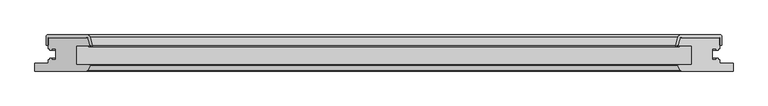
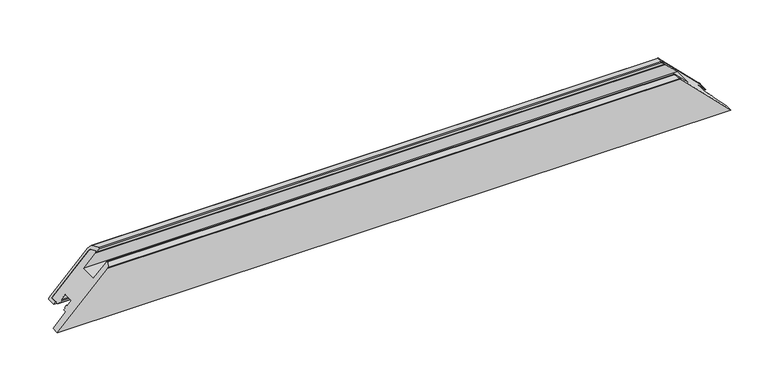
"""IFC4 building model written with IfcOpenShell, lengths in millimetres: proxy geometry, Weiku - Montante - Folha 02.2.01.017 : Weiku - Montante - Folha 02.2.01.017."""

from ifc_helpers import new_model, si_unit, frame, origin, place, context, project, spatial, polyline, ellipse_curve, source, transform, mapped, element, save
from ifc_brep_helpers import plane_surface, cylinder_surface, revolved_surface, advanced_brep


def generic_models_a8c19a0c(model_context):
    return source(origin(), model_context, "Body", "AdvancedBrep", [
        advanced_brep(
        [(502.0, 50.0, 20.0), (444.9997332, 50.0, 77.0002668), (-444.9997332, 50.0, 77.0002668), (-502.0, 50.0, 20.0), (442.1019557, 47.7764571, 79.8980443), (-442.1019557, 47.7764571, 79.8980443), (439.5170371, 38.1294095, 82.4829629), (-439.5170371, 38.1294095, 82.4829629), (440.0, 37.5, 82.0), (-440.0, 37.5, 82.0), (440.8560102, 37.5, 81.1439898), (-440.8560102, 37.5, 81.1439898), (440.8560102, 36.5, 81.1439898), (-440.8560102, 36.5, 81.1439898), (436.2425588, 36.5, 85.7574412), (-436.2425588, 36.5, 85.7574412), (435.2766329, 37.758819, 86.7233671), (-435.2766329, 37.758819, 86.7233671), (438.6354501, 50.2940952, 83.3645499), (-438.6354501, 50.2940952, 83.3645499), (443.4650792, 54.0, 78.5349208), (-443.4650792, 54.0, 78.5349208), (503.0, 54.0, 19.0), (-503.0, 54.0, 19.0), (505.0, 52.0, 17.0), (-505.0, 52.0, 17.0), (505.0, 38.5, 17.0), (-505.0, 38.5, 17.0), (502.0, 38.5, 20.0), (-502.0, 38.5, 20.0)],
        [
            (0, 1),
            (1, 2),
            (2, 3),
            (3, 0),
            (1, 4, ellipse_curve(frame((444.9997332, 47.0, 77.0002668), z_axis=(0.7071067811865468, 0.0, 0.7071067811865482), x_axis=(0.7071067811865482, 0.0, -0.7071067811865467)), 4.2426407, 3.0)),
            (4, 5),
            (5, 2, ellipse_curve(frame((-444.9997332, 47.0, 77.0002668), z_axis=(-0.7071067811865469, 0.0, 0.7071067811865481), x_axis=(0.7071067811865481, 0.0, 0.7071067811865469)), 4.2426407, 3.0)),
            (4, 6),
            (6, 7),
            (7, 5),
            (6, 8, ellipse_curve(frame((440.0, 38.0, 82.0), z_axis=(0.7071067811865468, 0.0, 0.7071067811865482), x_axis=(0.7071067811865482, 0.0, -0.7071067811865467)), 0.7071068, 0.5)),
            (8, 9),
            (9, 7, ellipse_curve(frame((-440.0, 38.0, 82.0), z_axis=(-0.7071067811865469, 0.0, 0.7071067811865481), x_axis=(0.7071067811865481, 0.0, 0.7071067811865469)), 0.7071068, 0.5)),
            (8, 10),
            (10, 11),
            (11, 9),
            (10, 12, ellipse_curve(frame((440.8560102, 37.0, 81.1439898), z_axis=(-0.7071067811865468, 0.0, -0.7071067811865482), x_axis=(-0.7071067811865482, 0.0, 0.7071067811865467)), 0.7071068, 0.5)),
            (12, 13),
            (13, 11, ellipse_curve(frame((-440.8560102, 37.0, 81.1439898), z_axis=(0.7071067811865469, 0.0, -0.7071067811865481), x_axis=(-0.7071067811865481, 0.0, -0.7071067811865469)), 0.7071068, 0.5)),
            (12, 14),
            (14, 15),
            (15, 13),
            (14, 16, ellipse_curve(frame((436.2425588, 37.5, 85.7574412), z_axis=(-0.7071067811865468, 0.0, -0.7071067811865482), x_axis=(-0.7071067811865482, 0.0, 0.7071067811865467)), 1.4142136, 1.0)),
            (16, 17),
            (17, 15, ellipse_curve(frame((-436.2425588, 37.5, 85.7574412), z_axis=(0.7071067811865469, 0.0, -0.7071067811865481), x_axis=(-0.7071067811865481, 0.0, -0.7071067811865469)), 1.4142136, 1.0)),
            (16, 18),
            (18, 19),
            (19, 17),
            (18, 20, ellipse_curve(frame((443.4650792, 49.0, 78.5349208), z_axis=(-0.7071067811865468, 0.0, -0.7071067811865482), x_axis=(-0.7071067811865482, 0.0, 0.7071067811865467)), 7.0710678, 5.0)),
            (20, 21),
            (21, 19, ellipse_curve(frame((-443.4650792, 49.0, 78.5349208), z_axis=(0.7071067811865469, 0.0, -0.7071067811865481), x_axis=(-0.7071067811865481, 0.0, -0.7071067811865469)), 7.0710678, 5.0)),
            (20, 22),
            (22, 23),
            (23, 21),
            (22, 24, ellipse_curve(frame((503.0, 52.0, 19.0), z_axis=(-0.7071067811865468, 0.0, -0.7071067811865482), x_axis=(-0.7071067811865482, 0.0, 0.7071067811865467)), 2.8284271, 2.0)),
            (24, 25),
            (25, 23, ellipse_curve(frame((-503.0, 52.0, 19.0), z_axis=(0.7071067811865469, 0.0, -0.7071067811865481), x_axis=(-0.7071067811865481, 0.0, -0.7071067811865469)), 2.8284271, 2.0)),
            (24, 26),
            (26, 27),
            (27, 25),
            (26, 28),
            (28, 29),
            (29, 27),
            (28, 0),
            (3, 29),
        ],
        [
            plane_surface(frame((-542.0, 50.0, 20.0), z_axis=(0.0, -1.0, 0.0), x_axis=(1.0, 0.0, 0.0))),
            revolved_surface(polyline([(447.99973320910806, 50.0, 77.0002668), (-447.99973320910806, 50.0, 77.0002668)]), (-542.0, 47.0, 77.0002668), (1.0, 0.0, 0.0)),
            plane_surface(frame((-542.0, 47.7764571, 79.8980443), z_axis=(0.0, -0.2588190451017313, -0.9659258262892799), x_axis=(1.0, 0.0, 0.0))),
            revolved_surface(polyline([(440.50000001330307, 38.5, 82.0), (-440.5000000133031, 38.5, 82.0)]), (-542.0, 38.0, 82.0), (1.0, 0.0, 0.0)),
            plane_surface(frame((-542.0, 37.5, 82.0), z_axis=(0.0, 1.0, 0.0), x_axis=(1.0, 0.0, 0.0))),
            cylinder_surface(frame((-542.0, 37.0, 81.1439898), z_axis=(-1.0, 0.0, 0.0), x_axis=(0.0, 1.0, 0.0)), 0.5),
            plane_surface(frame((-542.0, 36.5, 81.1439898), z_axis=(0.0, -1.0, 0.0), x_axis=(1.0, 0.0, 0.0))),
            cylinder_surface(frame((-542.0, 37.5, 85.7574412), z_axis=(-1.0, 0.0, 0.0), x_axis=(0.0, 1.0, 0.0)), 1.0),
            plane_surface(frame((-542.0, 37.758819, 86.7233671), z_axis=(0.0, 0.25881904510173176, 0.9659258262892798), x_axis=(1.0, 0.0, 0.0))),
            cylinder_surface(frame((-542.0, 49.0, 78.5349208), z_axis=(-1.0, 0.0, 0.0), x_axis=(0.0, 1.0, 0.0)), 5.0),
            plane_surface(frame((-542.0, 54.0, 78.5349208), z_axis=(0.0, 1.0, 0.0), x_axis=(1.0, 0.0, 0.0))),
            cylinder_surface(frame((-542.0, 52.0, 19.0), z_axis=(-1.0, 0.0, 0.0), x_axis=(0.0, 1.0, 0.0)), 2.0),
            plane_surface(frame((-542.0, 52.0, 17.0), z_axis=(0.0, 0.0, -1.0), x_axis=(1.0, 0.0, 0.0))),
            plane_surface(frame((-542.0, 38.5, 17.0), z_axis=(0.0, -1.0, 0.0), x_axis=(1.0, 0.0, 0.0))),
            plane_surface(frame((-542.0, 38.5, 20.0), z_axis=(0.0, 0.0, 1.0), x_axis=(1.0, 0.0, 0.0))),
            plane_surface(frame((432.0, 0.0, 90.0), z_axis=(0.7071067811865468, 0.0, 0.7071067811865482), x_axis=(0.0, 1.0, 0.0))),
            plane_surface(frame((-550.2842712, 0.0, -28.2842712), z_axis=(-0.7071067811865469, 0.0, 0.7071067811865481), x_axis=(0.0, 1.0, 0.0))),
        ],
        [
            (0, [[1, 2, 3, 4]]),
            (1, [[5, 6, 7, -2]]),
            (2, [[8, 9, 10, -6]]),
            (3, [[11, 12, 13, -9]]),
            (4, [[14, 15, 16, -12]]),
            (5, [[17, 18, 19, -15]]),
            (6, [[20, 21, 22, -18]]),
            (7, [[23, 24, 25, -21]]),
            (8, [[26, 27, 28, -24]]),
            (9, [[29, 30, 31, -27]]),
            (10, [[32, 33, 34, -30]]),
            (11, [[35, 36, 37, -33]]),
            (12, [[38, 39, 40, -36]]),
            (13, [[41, 42, 43, -39]]),
            (14, [[44, -4, 45, -42]]),
            (15, [[-1, -44, -41, -38, -35, -32, -29, -26, -23, -20, -17, -14, -11, -8, -5]]),
            (16, [[-3, -7, -10, -13, -16, -19, -22, -25, -28, -31, -34, -37, -40, -43, -45]]),
        ],
    ),
        advanced_brep(
        [(-502.0, 50.0, 20.0), (-444.9997332, 50.0, 77.0002668), (444.9997332, 50.0, 77.0002668), (502.0, 50.0, 20.0), (-522.0, 0.0, 0.0), (522.0, 0.0, 0.0), (443.9872264, 0.0, 78.0127736), (-443.9872264, 0.0, 78.0127736), (-502.0, 33.1, 20.0), (-499.8, 33.1, 22.2), (-499.8, 31.1, 22.2), (-497.0, 31.1, 25.0), (-497.0, 33.1, 25.0), (-490.5, 33.1, 31.5), (-490.5, 16.9, 31.5), (-497.0, 16.9, 25.0), (-497.0, 18.9, 25.0), (-499.8, 18.9, 22.2), (-499.8, 16.9, 22.2), (-502.0, 16.9, 20.0), (-502.0, 11.5, 20.0), (-522.0, 11.5, 0.0), (-443.0932657, 0.5518546, 78.9067343), (-439.5512796, 7.617411, 82.4487204), (-440.7134285, 9.5, 81.2865715), (-460.5, 9.5, 61.5), (-460.5, 37.5, 61.5), (-440.0, 37.5, 82.0), (-439.5170371, 38.1294095, 82.4829629), (-442.1019557, 47.7764571, 79.8980443), (442.1019557, 47.7764571, 79.8980443), (439.5170371, 38.1294095, 82.4829629), (440.0, 37.5, 82.0), (460.5, 37.5, 61.5), (460.5, 9.5, 61.5), (440.7134285, 9.5, 81.2865715), (439.5512796, 7.617411, 82.4487204), (443.0932657, 0.5518546, 78.9067343), (522.0, 11.5, 0.0), (502.0, 11.5, 20.0), (502.0, 16.9, 20.0), (499.8, 16.9, 22.2), (499.8, 18.9, 22.2), (497.0, 18.9, 25.0), (497.0, 16.9, 25.0), (490.5, 16.9, 31.5), (490.5, 33.1, 31.5), (497.0, 33.1, 25.0), (497.0, 31.1, 25.0), (499.8, 31.1, 22.2), (499.8, 33.1, 22.2), (502.0, 33.1, 20.0)],
        [
            (0, 1),
            (1, 2),
            (2, 3),
            (3, 0),
            (4, 5),
            (5, 6),
            (6, 7),
            (7, 4),
            (0, 8),
            (8, 9),
            (9, 10),
            (10, 11),
            (11, 12),
            (12, 13),
            (13, 14),
            (14, 15),
            (15, 16),
            (16, 17),
            (17, 18),
            (18, 19),
            (19, 20),
            (20, 21),
            (21, 4),
            (7, 22, ellipse_curve(frame((-443.9872264, 1.0, 78.0127736), z_axis=(-0.7071067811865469, 0.0, 0.7071067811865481), x_axis=(-0.7071067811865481, 0.0, -0.7071067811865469)), 1.4142136, 1.0)),
            (22, 23),
            (23, 24, ellipse_curve(frame((-440.7134285, 8.2, 81.2865715), z_axis=(-0.7071067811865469, 0.0, 0.7071067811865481), x_axis=(-0.7071067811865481, 0.0, -0.7071067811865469)), 1.8384776, 1.3)),
            (24, 25),
            (25, 26),
            (26, 27),
            (27, 28, ellipse_curve(frame((-440.0, 38.0, 82.0), z_axis=(-0.7071067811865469, 0.0, 0.7071067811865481), x_axis=(-0.7071067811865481, 0.0, -0.7071067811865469)), 0.7071068, 0.5)),
            (28, 29),
            (29, 1, ellipse_curve(frame((-444.9997332, 47.0, 77.0002668), z_axis=(-0.7071067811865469, 0.0, 0.7071067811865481), x_axis=(-0.7071067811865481, 0.0, -0.7071067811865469)), 4.2426407, 3.0)),
            (2, 30, ellipse_curve(frame((444.9997332, 47.0, 77.0002668), z_axis=(0.7071067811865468, 0.0, 0.7071067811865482), x_axis=(-0.7071067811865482, 0.0, 0.7071067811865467)), 4.2426407, 3.0)),
            (30, 31),
            (31, 32, ellipse_curve(frame((440.0, 38.0, 82.0), z_axis=(0.7071067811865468, 0.0, 0.7071067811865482), x_axis=(-0.7071067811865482, 0.0, 0.7071067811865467)), 0.7071068, 0.5)),
            (32, 33),
            (33, 34),
            (34, 35),
            (35, 36, ellipse_curve(frame((440.7134285, 8.2, 81.2865715), z_axis=(0.7071067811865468, 0.0, 0.7071067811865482), x_axis=(-0.7071067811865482, 0.0, 0.7071067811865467)), 1.8384776, 1.3)),
            (36, 37),
            (37, 6, ellipse_curve(frame((443.9872264, 1.0, 78.0127736), z_axis=(0.7071067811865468, 0.0, 0.7071067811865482), x_axis=(-0.7071067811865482, 0.0, 0.7071067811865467)), 1.4142136, 1.0)),
            (5, 38),
            (38, 39),
            (39, 40),
            (40, 41),
            (41, 42),
            (42, 43),
            (43, 44),
            (44, 45),
            (45, 46),
            (46, 47),
            (47, 48),
            (48, 49),
            (49, 50),
            (50, 51),
            (51, 3),
            (37, 22),
            (36, 23),
            (35, 24),
            (34, 25),
            (33, 26),
            (32, 27),
            (31, 28),
            (30, 29),
            (51, 8),
            (50, 9),
            (49, 10),
            (48, 11),
            (47, 12),
            (46, 13),
            (45, 14),
            (44, 15),
            (43, 16),
            (42, 17),
            (41, 18),
            (40, 19),
            (39, 20),
            (38, 21),
        ],
        [
            plane_surface(frame((-522.0, 50.0, 77.0002668), z_axis=(0.0, 1.0, 0.0), x_axis=(1.0, 0.0, 0.0))),
            plane_surface(frame((-522.0, 0.0, 0.0), z_axis=(0.0, -1.0, 0.0), x_axis=(1.0, 0.0, 0.0))),
            plane_surface(frame((-550.2842712, 0.0, -28.2842712), z_axis=(-0.7071067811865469, 0.0, 0.7071067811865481), x_axis=(0.0, 1.0, 0.0))),
            plane_surface(frame((432.0, 0.0, 90.0), z_axis=(0.7071067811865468, 0.0, 0.7071067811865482), x_axis=(0.0, 1.0, 0.0))),
            cylinder_surface(frame((-522.0, 1.0, 78.0127736), z_axis=(-1.0, 0.0, 0.0), x_axis=(0.0, 1.0, 0.0)), 1.0),
            plane_surface(frame((-522.0, 0.5518546, 78.9067343), z_axis=(0.0, -0.4481453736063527, 0.8939606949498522), x_axis=(1.0, 0.0, 0.0))),
            cylinder_surface(frame((-522.0, 8.2, 81.2865715), z_axis=(-1.0, 0.0, 0.0), x_axis=(0.0, 1.0, 0.0)), 1.3),
            plane_surface(frame((-522.0, 9.5, 81.2865715), z_axis=(0.0, 1.0, 0.0), x_axis=(1.0, 0.0, 0.0))),
            plane_surface(frame((-522.0, 9.5, 61.5), z_axis=(0.0, 0.0, 1.0), x_axis=(1.0, 0.0, 0.0))),
            plane_surface(frame((-522.0, 37.5, 61.5), z_axis=(0.0, -1.0, 0.0), x_axis=(1.0, 0.0, 0.0))),
            cylinder_surface(frame((-522.0, 38.0, 82.0), z_axis=(-1.0, 0.0, 0.0), x_axis=(0.0, 1.0, 0.0)), 0.5),
            plane_surface(frame((-522.0, 38.1294095, 82.4829629), z_axis=(0.0, 0.2588190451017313, 0.9659258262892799), x_axis=(1.0, 0.0, 0.0))),
            cylinder_surface(frame((-522.0, 47.0, 77.0002668), z_axis=(-1.0, 0.0, 0.0), x_axis=(0.0, 1.0, 0.0)), 3.0),
            plane_surface(frame((-522.0, 50.0, 20.0), z_axis=(0.0, 0.0, -1.0), x_axis=(1.0, 0.0, 0.0))),
            plane_surface(frame((-522.0, 33.1, 20.0), z_axis=(0.0, -1.0, 0.0), x_axis=(1.0, 0.0, 0.0))),
            plane_surface(frame((-522.0, 33.1, 22.2), z_axis=(0.0, 0.0, -1.0), x_axis=(1.0, 0.0, 0.0))),
            plane_surface(frame((-522.0, 31.1, 22.2), z_axis=(0.0, -1.0, 0.0), x_axis=(1.0, 0.0, 0.0))),
            plane_surface(frame((-522.0, 31.1, 25.0), z_axis=(0.0, 0.0, 1.0), x_axis=(1.0, 0.0, 0.0))),
            plane_surface(frame((-522.0, 33.1, 25.0), z_axis=(0.0, -1.0, 0.0), x_axis=(1.0, 0.0, 0.0))),
            plane_surface(frame((-522.0, 33.1, 31.5), z_axis=(0.0, 0.0, -1.0), x_axis=(1.0, 0.0, 0.0))),
            plane_surface(frame((-522.0, 16.9, 31.5), z_axis=(0.0, 1.0, 0.0), x_axis=(1.0, 0.0, 0.0))),
            plane_surface(frame((-522.0, 16.9, 25.0), z_axis=(0.0, 0.0, 1.0), x_axis=(1.0, 0.0, 0.0))),
            plane_surface(frame((-522.0, 18.9, 25.0), z_axis=(0.0, 1.0, 0.0), x_axis=(1.0, 0.0, 0.0))),
            plane_surface(frame((-522.0, 18.9, 22.2), z_axis=(0.0, 0.0, -1.0), x_axis=(1.0, 0.0, 0.0))),
            plane_surface(frame((-522.0, 16.9, 22.2), z_axis=(0.0, 1.0, 0.0), x_axis=(1.0, 0.0, 0.0))),
            plane_surface(frame((-522.0, 16.9, 20.0), z_axis=(0.0, 0.0, -1.0), x_axis=(1.0, 0.0, 0.0))),
            plane_surface(frame((-522.0, 11.5, 20.0), z_axis=(0.0, 1.0, 0.0), x_axis=(1.0, 0.0, 0.0))),
            plane_surface(frame((-522.0, 11.5, 0.0), z_axis=(0.0, 0.0, -1.0), x_axis=(1.0, 0.0, 0.0))),
        ],
        [
            (0, [[1, 2, 3, 4]]),
            (1, [[5, 6, 7, 8]]),
            (2, [[-1, 9, 10, 11, 12, 13, 14, 15, 16, 17, 18, 19, 20, 21, 22, 23, -8, 24, 25, 26, 27, 28, 29, 30, 31, 32]]),
            (3, [[-3, 33, 34, 35, 36, 37, 38, 39, 40, 41, -6, 42, 43, 44, 45, 46, 47, 48, 49, 50, 51, 52, 53, 54, 55, 56]]),
            (4, [[-24, -7, -41, 57]]),
            (5, [[-25, -57, -40, 58]]),
            (6, [[-26, -58, -39, 59]]),
            (7, [[-27, -59, -38, 60]]),
            (8, [[-28, -60, -37, 61]]),
            (9, [[-29, -61, -36, 62]]),
            (10, [[-30, -62, -35, 63]]),
            (11, [[-31, -63, -34, 64]]),
            (12, [[-32, -64, -33, -2]]),
            (13, [[-9, -4, -56, 65]]),
            (14, [[-10, -65, -55, 66]]),
            (15, [[-11, -66, -54, 67]]),
            (16, [[-12, -67, -53, 68]]),
            (17, [[-13, -68, -52, 69]]),
            (18, [[-14, -69, -51, 70]]),
            (19, [[-15, -70, -50, 71]]),
            (20, [[-16, -71, -49, 72]]),
            (21, [[-17, -72, -48, 73]]),
            (22, [[-18, -73, -47, 74]]),
            (23, [[-19, -74, -46, 75]]),
            (24, [[-20, -75, -45, 76]]),
            (25, [[-21, -76, -44, 77]]),
            (26, [[78, -22, -77, -43]]),
            (27, [[-5, -23, -78, -42]]),
        ],
    ),
    ])


if __name__ == "__main__":
    model = new_model("IFC4")
    model_context = context("Model", 3, world=origin())
    ifc_project = project(units=[si_unit("LENGTHUNIT", "METRE", prefix="MILLI")], contexts=[model_context])
    site = spatial("IfcSite", under=ifc_project)
    building = spatial("IfcBuilding", under=site)
    placement = place(None, origin())
    generic_models_shape = generic_models_a8c19a0c(model_context)
    element("IfcBuildingElementProxy", 1, Name="Weiku - Montante - Folha 02.2.01.017 : Weiku - Montante - Folha 02.2.01.017", ObjectType="Weiku - Montante - Folha 02.2.01.017 : Weiku - Montante - Folha 02.2.01.017", at=placement, inside=building, context=model_context, shape_type="MappedRepresentation", body=[
        mapped(generic_models_shape, transform((0.0, 0.0, 0.0), x_axis=(1.0, 0.0, 0.0), y_axis=(0.0, 1.0, 0.0), z_axis=(0.0, 0.0, 1.0))),
    ])
    save(model, "model.ifc")
